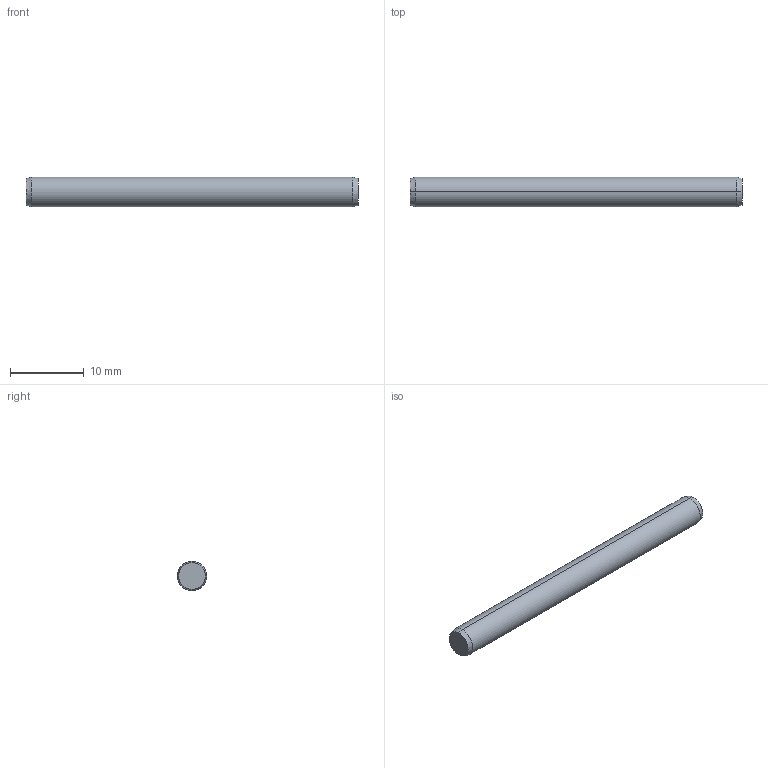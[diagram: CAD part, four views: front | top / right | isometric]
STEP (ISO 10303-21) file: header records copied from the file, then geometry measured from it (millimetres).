
FILE_DESCRIPTION (( 'STEP AP203' ), '1' );
FILE_NAME ('P1206.040-045.step', '2017-06-14T08:12:43', ( 'User' ), ( '' ), 'SwSTEP 2.0', 'SolidWorks 2009', '' );
FILE_SCHEMA (( 'CONFIG_CONTROL_DESIGN' ));
Length unit declared in the file: millimetre
Products named in the file (1): P1206.040-045
Bounding box: 45 x 4 x 4 mm (x, y, z)
Volume: 563.9 mm3; surface area: 585.9 mm2
Topology: 1 solids, 1 shells, 8 faces, 14 edges, 8 vertices
Faces by surface type: cone 4, cylinder 2, plane 2
Entity records: 271 total; most frequent: DIRECTION 40, CARTESIAN_POINT 31, ORIENTED_EDGE 28, AXIS2_PLACEMENT_3D 17, EDGE_CURVE 14, FACE_OUTER_BOUND 8, CIRCLE 8, ADVANCED_FACE 8
